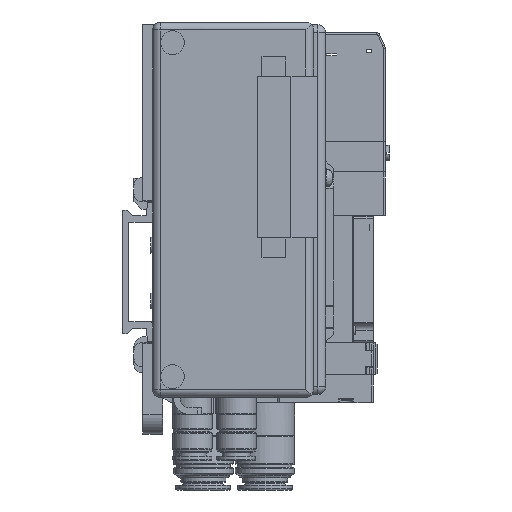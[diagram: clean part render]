
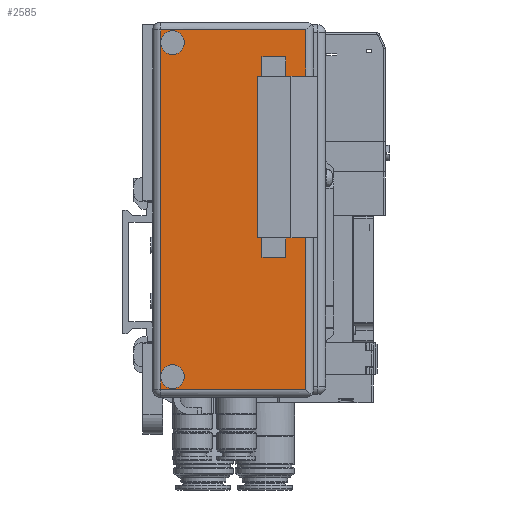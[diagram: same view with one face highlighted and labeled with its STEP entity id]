
A CAD part, left-side view. The second image highlights one B-rep face of the part: STEP entity #2585.
In plain terms, the highlighted planar face has unit normal (-1, 0, 0).
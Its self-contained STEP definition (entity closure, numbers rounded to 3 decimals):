
#2585=ADVANCED_FACE('',(#20186,#20187),#20185,.F.);
#20185=PLANE('',#31156);
#20186=FACE_OUTER_BOUND('',#31157,.T.);
#20187=FACE_BOUND('',#31158,.T.);
#31153=CARTESIAN_POINT('',(0.,-42.15,103.835));
#31154=DIRECTION('',(1.,0.,0.));
#31155=DIRECTION('',(0.,0.,-1.));
#31156=AXIS2_PLACEMENT_3D('',#31153,#31154,#31155);
#31157=EDGE_LOOP('',(#40624,#40625,#40626,#40627,#40628,#40629,#40630,#40631,#40632,#40633,#40634,#40635));
#31158=EDGE_LOOP('',(#40636,#40637,#40638,#40639,#40640,#40641,#40642,#40643));
#40624=ORIENTED_EDGE('',*,*,#45465,.T.);
#40625=ORIENTED_EDGE('',*,*,#45466,.T.);
#40626=ORIENTED_EDGE('',*,*,#45467,.T.);
#40627=ORIENTED_EDGE('',*,*,#45468,.T.);
#40628=ORIENTED_EDGE('',*,*,#45469,.F.);
#40629=ORIENTED_EDGE('',*,*,#45470,.F.);
#40630=ORIENTED_EDGE('',*,*,#45471,.F.);
#40631=ORIENTED_EDGE('',*,*,#45472,.T.);
#40632=ORIENTED_EDGE('',*,*,#45473,.F.);
#40633=ORIENTED_EDGE('',*,*,#45474,.F.);
#40634=ORIENTED_EDGE('',*,*,#45475,.F.);
#40635=ORIENTED_EDGE('',*,*,#45476,.T.);
#40636=ORIENTED_EDGE('',*,*,#45477,.F.);
#40637=ORIENTED_EDGE('',*,*,#45478,.T.);
#40638=ORIENTED_EDGE('',*,*,#45479,.T.);
#40639=ORIENTED_EDGE('',*,*,#45480,.T.);
#40640=ORIENTED_EDGE('',*,*,#45481,.F.);
#40641=ORIENTED_EDGE('',*,*,#45482,.T.);
#40642=ORIENTED_EDGE('',*,*,#45483,.T.);
#40643=ORIENTED_EDGE('',*,*,#45484,.F.);
#45465=EDGE_CURVE('',#76633,#76634,#76635,.T.);
#45466=EDGE_CURVE('',#76634,#76641,#76642,.T.);
#45467=EDGE_CURVE('',#76641,#76648,#76649,.T.);
#45468=EDGE_CURVE('',#76648,#76655,#76656,.T.);
#45469=EDGE_CURVE('',#76662,#76655,#76663,.T.);
#45470=EDGE_CURVE('',#76669,#76662,#76670,.T.);
#45471=EDGE_CURVE('',#76655,#76669,#76676,.T.);
#45472=EDGE_CURVE('',#76655,#76682,#76683,.T.);
#45473=EDGE_CURVE('',#76689,#76682,#76690,.T.);
#45474=EDGE_CURVE('',#76696,#76689,#76697,.T.);
#45475=EDGE_CURVE('',#76682,#76696,#76703,.T.);
#45476=EDGE_CURVE('',#76682,#76633,#76709,.T.);
#45477=EDGE_CURVE('',#76715,#76716,#76717,.T.);
#45478=EDGE_CURVE('',#76715,#76723,#76724,.T.);
#45479=EDGE_CURVE('',#76723,#76730,#76731,.T.);
#45480=EDGE_CURVE('',#76730,#76737,#76738,.T.);
#45481=EDGE_CURVE('',#76744,#76737,#76745,.T.);
#45482=EDGE_CURVE('',#76744,#76751,#76752,.T.);
#45483=EDGE_CURVE('',#76751,#76758,#76759,.T.);
#45484=EDGE_CURVE('',#76716,#76758,#76765,.T.);
#76633=VERTEX_POINT('',#94903);
#76634=VERTEX_POINT('',#94904);
#76635=LINE('',#94905,#94906);
#76641=VERTEX_POINT('',#94908);
#76642=LINE('',#94909,#94910);
#76648=VERTEX_POINT('',#94912);
#76649=LINE('',#94913,#94914);
#76655=VERTEX_POINT('',#94916);
#76656=LINE('',#94917,#94918);
#76662=VERTEX_POINT('',#94920);
#76663=CIRCLE('',#94924,3.);
#76669=VERTEX_POINT('',#94925);
#76670=CIRCLE('',#94929,3.);
#76676=CIRCLE('',#94933,3.);
#76682=VERTEX_POINT('',#94934);
#76683=LINE('',#94935,#94936);
#76689=VERTEX_POINT('',#94938);
#76690=CIRCLE('',#94942,3.);
#76696=VERTEX_POINT('',#94943);
#76697=CIRCLE('',#94947,3.);
#76703=CIRCLE('',#94951,3.);
#76709=LINE('',#94952,#94953);
#76715=VERTEX_POINT('',#94955);
#76716=VERTEX_POINT('',#94956);
#76717=LINE('',#94957,#94958);
#76723=VERTEX_POINT('',#94960);
#76724=LINE('',#94961,#94962);
#76730=VERTEX_POINT('',#94964);
#76731=LINE('',#94965,#94966);
#76737=VERTEX_POINT('',#94968);
#76738=LINE('',#94969,#94970);
#76744=VERTEX_POINT('',#94972);
#76745=LINE('',#94973,#94974);
#76751=VERTEX_POINT('',#94976);
#76752=LINE('',#94977,#94978);
#76758=VERTEX_POINT('',#94980);
#76759=LINE('',#94981,#94982);
#76765=LINE('',#94984,#94985);
#94903=CARTESIAN_POINT('',(0.,-2.,2.));
#94904=CARTESIAN_POINT('',(0.,-38.5,2.));
#94905=CARTESIAN_POINT('',(0.,-2.,2.));
#94906=VECTOR('',#94907,36.5);
#94907=DIRECTION('',(0.,-1.,0.));
#94908=CARTESIAN_POINT('',(0.,-38.5,92.4));
#94909=CARTESIAN_POINT('',(0.,-38.5,2.));
#94910=VECTOR('',#94911,90.4);
#94911=DIRECTION('',(0.,0.,1.));
#94912=CARTESIAN_POINT('',(0.,-2.,92.4));
#94913=CARTESIAN_POINT('',(0.,-38.5,92.4));
#94914=VECTOR('',#94915,36.5);
#94915=DIRECTION('',(0.,1.,0.));
#94916=CARTESIAN_POINT('',(0.,-2.,89.2));
#94917=CARTESIAN_POINT('',(0.,-2.,92.4));
#94918=VECTOR('',#94919,3.2);
#94919=DIRECTION('',(0.,0.,-1.));
#94920=CARTESIAN_POINT('',(0.,-5.,92.2));
#94921=CARTESIAN_POINT('',(0.,-5.,89.2));
#94922=DIRECTION('',(-1.,0.,0.));
#94923=DIRECTION('',(0.,1.,0.));
#94924=AXIS2_PLACEMENT_3D('',#94921,#94922,#94923);
#94925=CARTESIAN_POINT('',(0.,-5.,86.2));
#94926=CARTESIAN_POINT('',(0.,-5.,89.2));
#94927=DIRECTION('',(-1.,0.,0.));
#94928=DIRECTION('',(0.,1.,0.));
#94929=AXIS2_PLACEMENT_3D('',#94926,#94927,#94928);
#94930=CARTESIAN_POINT('',(0.,-5.,89.2));
#94931=DIRECTION('',(-1.,0.,0.));
#94932=DIRECTION('',(0.,1.,0.));
#94933=AXIS2_PLACEMENT_3D('',#94930,#94931,#94932);
#94934=CARTESIAN_POINT('',(0.,-2.,5.2));
#94935=CARTESIAN_POINT('',(0.,-2.,89.2));
#94936=VECTOR('',#94937,84.);
#94937=DIRECTION('',(0.,0.,-1.));
#94938=CARTESIAN_POINT('',(0.,-5.,8.2));
#94939=CARTESIAN_POINT('',(0.,-5.,5.2));
#94940=DIRECTION('',(-1.,0.,0.));
#94941=DIRECTION('',(0.,1.,0.));
#94942=AXIS2_PLACEMENT_3D('',#94939,#94940,#94941);
#94943=CARTESIAN_POINT('',(0.,-5.,2.2));
#94944=CARTESIAN_POINT('',(0.,-5.,5.2));
#94945=DIRECTION('',(-1.,0.,0.));
#94946=DIRECTION('',(0.,1.,0.));
#94947=AXIS2_PLACEMENT_3D('',#94944,#94945,#94946);
#94948=CARTESIAN_POINT('',(0.,-5.,5.2));
#94949=DIRECTION('',(-1.,0.,0.));
#94950=DIRECTION('',(0.,1.,0.));
#94951=AXIS2_PLACEMENT_3D('',#94948,#94949,#94950);
#94952=CARTESIAN_POINT('',(0.,-2.,5.2));
#94953=VECTOR('',#94954,3.2);
#94954=DIRECTION('',(0.,0.,-1.));
#94955=CARTESIAN_POINT('',(0.,-33.5,85.62));
#94956=CARTESIAN_POINT('',(0.,-27.5,85.62));
#94957=CARTESIAN_POINT('',(0.,-33.5,85.62));
#94958=VECTOR('',#94959,6.);
#94959=DIRECTION('',(0.,1.,0.));
#94960=CARTESIAN_POINT('',(0.,-33.5,80.72));
#94961=CARTESIAN_POINT('',(0.,-33.5,85.62));
#94962=VECTOR('',#94963,4.9);
#94963=DIRECTION('',(0.,0.,-1.));
#94964=CARTESIAN_POINT('',(0.,-37.,80.72));
#94965=CARTESIAN_POINT('',(0.,-33.5,80.72));
#94966=VECTOR('',#94967,3.5);
#94967=DIRECTION('',(0.,-1.,0.));
#94968=CARTESIAN_POINT('',(0.,-37.,40.08));
#94969=CARTESIAN_POINT('',(0.,-37.,80.72));
#94970=VECTOR('',#94971,40.64);
#94971=DIRECTION('',(0.,0.,-1.));
#94972=CARTESIAN_POINT('',(0.,-33.5,40.08));
#94973=CARTESIAN_POINT('',(0.,-33.5,40.08));
#94974=VECTOR('',#94975,3.5);
#94975=DIRECTION('',(0.,-1.,0.));
#94976=CARTESIAN_POINT('',(0.,-33.5,35.18));
#94977=CARTESIAN_POINT('',(0.,-33.5,40.08));
#94978=VECTOR('',#94979,4.9);
#94979=DIRECTION('',(0.,0.,-1.));
#94980=CARTESIAN_POINT('',(0.,-27.5,35.18));
#94981=CARTESIAN_POINT('',(0.,-33.5,35.18));
#94982=VECTOR('',#94983,6.);
#94983=DIRECTION('',(0.,1.,0.));
#94984=CARTESIAN_POINT('',(0.,-27.5,85.62));
#94985=VECTOR('',#94986,50.44);
#94986=DIRECTION('',(0.,0.,-1.));
